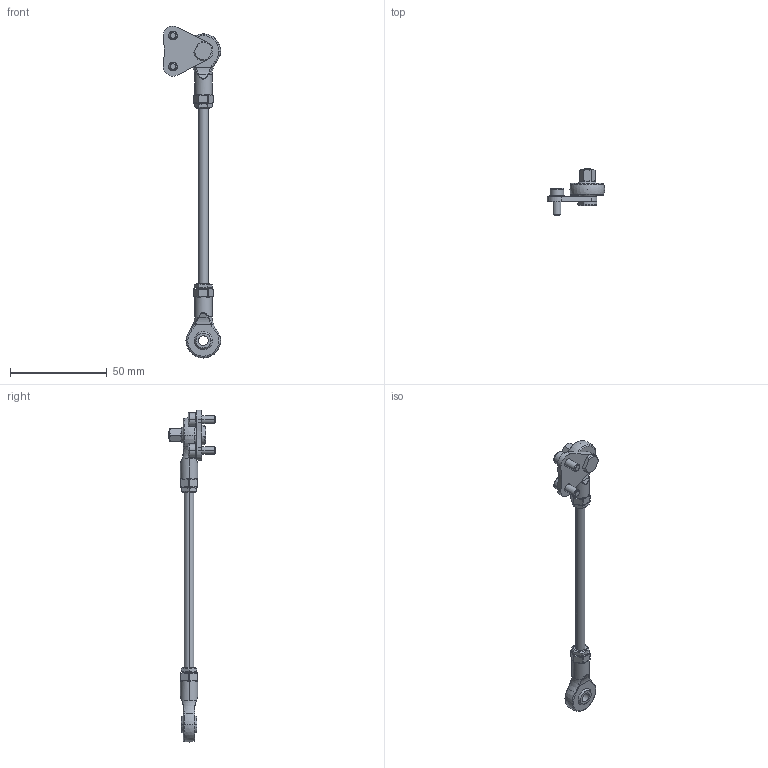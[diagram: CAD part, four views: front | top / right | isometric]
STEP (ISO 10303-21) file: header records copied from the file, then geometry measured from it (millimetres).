
FILE_DESCRIPTION (( 'STEP AP214' ), '1' );
FILE_NAME ('8.0010.40U1.0000.STEP', '2016-06-23T09:05:04', ( 'admin' ), ( 'Microsoft' ), 'SwSTEP 2.0', 'SolidWorks 2013', '' );
FILE_SCHEMA (( 'AUTOMOTIVE_DESIGN' ));
Length unit declared in the file: millimetre
Products named in the file (1): 8.0010.40U1.0000
Bounding box: 29.75 x 24 x 172 mm (x, y, z)
Surface area: 6736 mm2 (no closed solid volume)
Topology: 0 solids, 15 shells, 330 faces, 937 edges, 589 vertices
Faces by surface type: plane 114, cylinder 86, bspline 52, cone 32, torus 32, sphere 14
Entity records: 15436 total; most frequent: CARTESIAN_POINT 3780, DIRECTION 1653, ORIENTED_EDGE 1633, EDGE_CURVE 907, AXIS2_PLACEMENT_3D 646, VERTEX_POINT 585, CIRCLE 367, LINE 361
